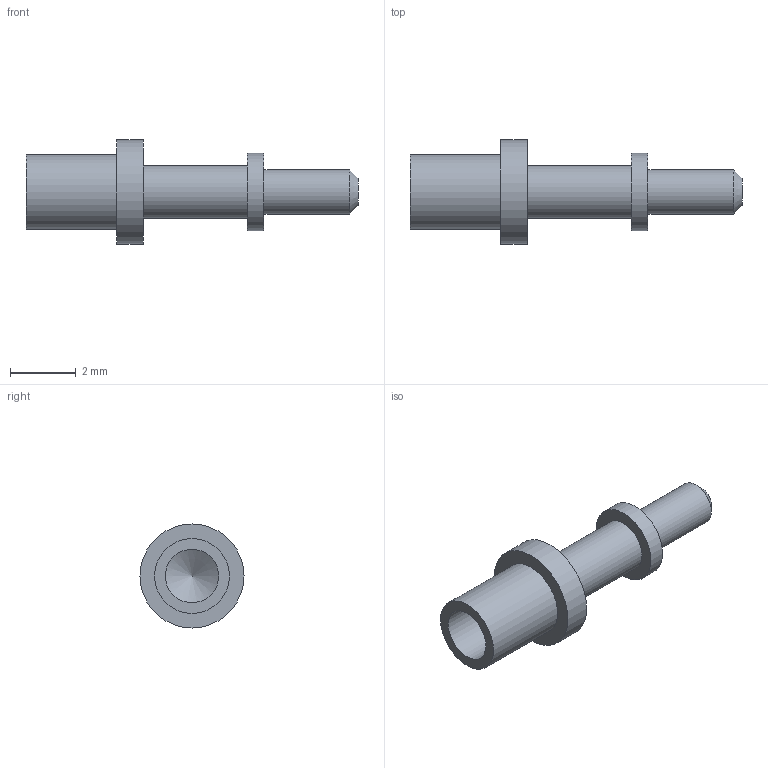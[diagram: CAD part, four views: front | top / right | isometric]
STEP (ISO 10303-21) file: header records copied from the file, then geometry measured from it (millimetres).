
FILE_DESCRIPTION(/* description */ (''),/* implementation_level */ '2;1');
FILE_NAME(/* name */ 'Z:\STEP folder\120-1011-02.ipt.stp',/* time_stamp */ '2016-12-07T10:26:07+00:00',/* author */ ('Paul Karlsons'),/* organization */ (''),/* preprocessor_version */ 'ST-DEVELOPER v15.2',/* originating_system */ 'Autodesk Inventor 2014',/* authorisation */ '');
FILE_SCHEMA (('AUTOMOTIVE_DESIGN { 1 0 10303 214 3 1 1 }'));
Length unit declared in the file: millimetre
Products named in the file (1): 120-1011-02
Bounding box: 10.13 x 3.17 x 3.17 mm (x, y, z)
Volume: 26.7 mm3; surface area: 88.2 mm2
Topology: 1 solids, 1 shells, 14 faces, 22 edges, 14 vertices
Faces by surface type: cylinder 6, plane 6, cone 2
Full cylindrical faces by diameter (mm): 1.346 x1, 1.6 x1, 1.626 x1, 2.286 x1, 2.36 x1, 3.175 x1
Entity records: 295 total; most frequent: DIRECTION 56, CARTESIAN_POINT 41, AXIS2_PLACEMENT_3D 28, EDGE_LOOP 26, ORIENTED_EDGE 26, FACE_BOUND 15, ADVANCED_FACE 14, CIRCLE 13
